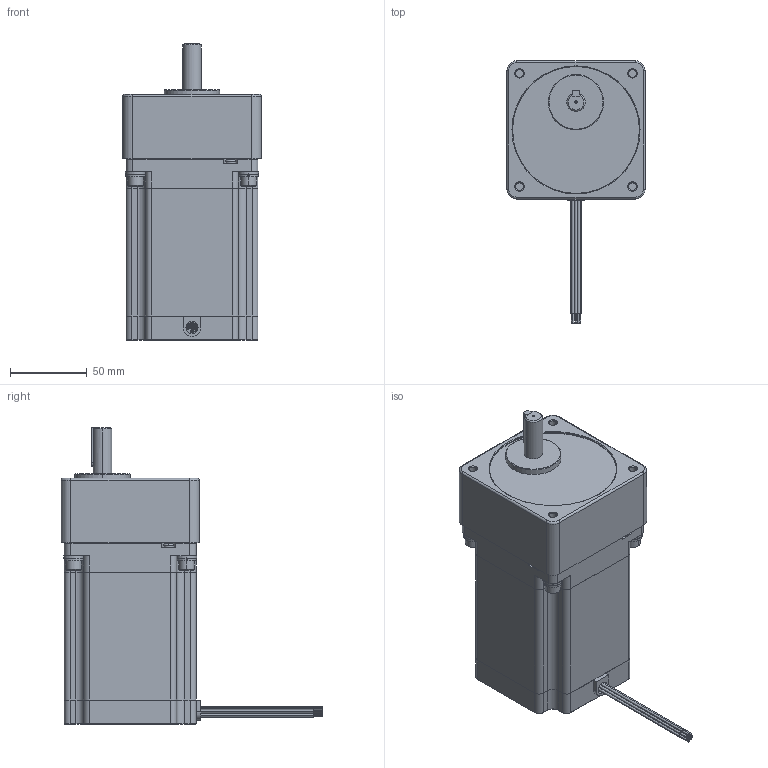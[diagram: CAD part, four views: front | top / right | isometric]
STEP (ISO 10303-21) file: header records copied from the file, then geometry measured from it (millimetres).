
FILE_DESCRIPTION (( 'STEP AP214' ), '1' );
FILE_NAME ('34YSG208S-LW8-R12.5.STEP', '2010-06-18T16:47:21', ( 'Tim Raines' ), ( 'Anaheim Automation' ), 'SwSTEP 2.0', 'SolidWorks 2010', '' );
FILE_SCHEMA (( 'AUTOMOTIVE_DESIGN' ));
Length unit declared in the file: millimetre
Products named in the file (6): 34YSG Motor_34YSG208S-LW8; Lock Washer Spring Regular_AI_Regular LW 0.25; 34SG Series_34SG1; Flat Washer Narrow_AM_B18.22M - Plain washer, 6 mm, narrow; Socket Head Cap Screw_AM_B18.3.1M - 6 x 1.0 x 20 Hex SHCS -- 20NHX; 34YSG208S-LW8-R12.5
Assembly tree (14 placements, depth 2):
  34YSG208S-LW8-R12.5
    Flat Washer Narrow_AM_B18.22M - Plain washer, 6 mm, narrow  x4
    Socket Head Cap Screw_AM_B18.3.1M - 6 x 1.0 x 20 Hex SHCS -- 20NHX  x4
    Lock Washer Spring Regular_AI_Regular LW 0.25  x4
    34SG Series_34SG1
    34YSG Motor_34YSG208S-LW8
Bounding box: 89.92 x 170.43 x 193.12 mm (x, y, z)
Volume: 1123964.9 mm3; surface area: 101722 mm2
Topology: 14 solids, 14 shells, 575 faces, 1363 edges, 848 vertices
Faces by surface type: plane 272, cylinder 190, cone 93, torus 20
Entity records: 18465 total; most frequent: CARTESIAN_POINT 2581, DIRECTION 2415, ORIENTED_EDGE 2214, EDGE_CURVE 1107, AXIS2_PLACEMENT_3D 895, VERTEX_POINT 701, VECTOR 625, LINE 625
